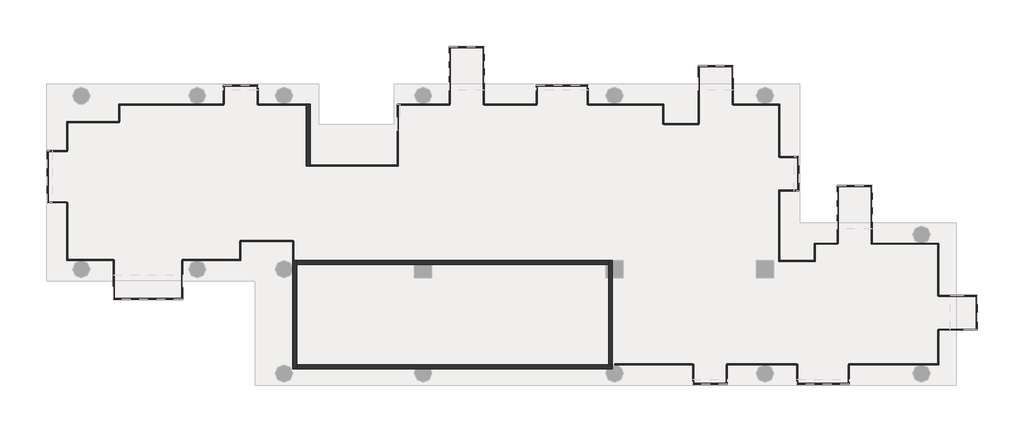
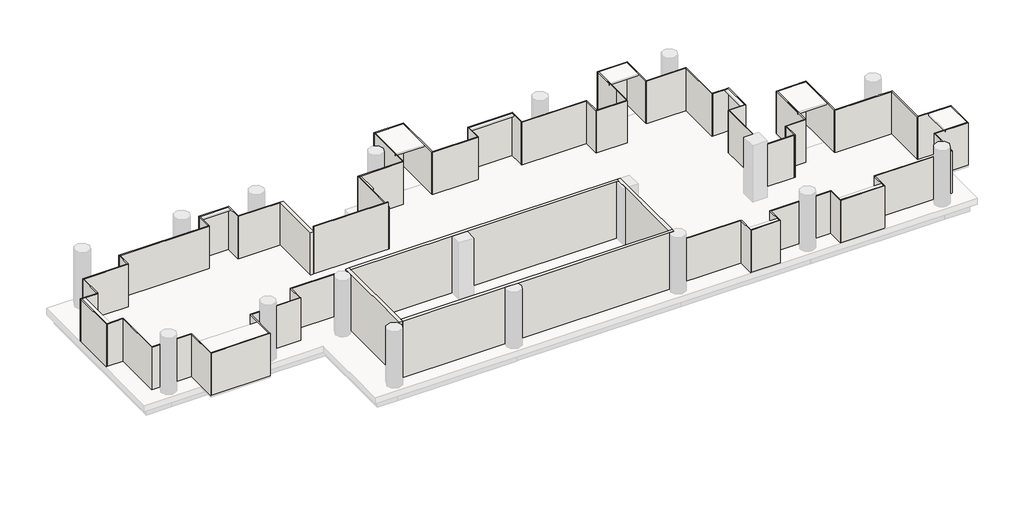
# One storey, part 1 of 2: 69 walls.
"""IFC4 building model written with IfcOpenShell, lengths in millimetres."""

from ifc_helpers import new_model, si_unit, frame, origin, place, context, project, spatial, polyline, outline, extrude, faceted_brep, element, save

model = new_model("IFC4")

# Units and contexts
model_context = context("Model", 3, world=origin())
ifc_project = project(units=[si_unit("LENGTHUNIT", "METRE", prefix="MILLI")], contexts=[model_context])

# Site, building, storey
site = spatial("IfcSite", under=ifc_project)
building = spatial("IfcBuilding", under=site)
storey = spatial("IfcBuildingStorey", under=building, Name="TW-L 08", Elevation=27999.9999686)

# Walls
placement = place(None, origin())
element("IfcWall", 1, ObjectType="AJN-ARC-CONCRETE WALL-20cm", at=placement, inside=storey, context=model_context, shape_type="Brep", body=[
    faceted_brep([(113050.0, 30750.0, 31599.9999686), (113050.0, 30750.0, 27999.9999686), (113050.0, 25150.0, 27999.9999686), (113050.0, 25150.0, 31599.9999686), (113250.0, 30750.0, 27999.9999686), (113250.0, 30750.0, 31599.9999686), (113250.0, 30550.0, 31599.9999686), (113250.0, 25350.0, 31599.9999686), (113250.0, 25150.0, 31599.9999686), (113250.0, 25150.0, 27999.9999686), (113250.0, 25350.0, 27999.9999686), (113250.0, 30550.0, 27999.9999686), (113097.1743518, 30750.0, 27999.9999686)], [[[0, 1, 2, 3]], [[4, 5, 6, 7, 8, 9, 10, 11]], [[2, 1, 12, 4, 11, 10, 9]], [[0, 3, 8, 7, 6, 5]], [[3, 2, 9, 8]], [[0, 5, 4, 12, 1]]]),
])
element("IfcWall", 2, ObjectType="AJN-ARC-CONCRETE WALL-20cm", at=placement, inside=storey, context=model_context, shape_type="Brep", body=[
    faceted_brep([(113250.0, 25150.0, 27999.9999686), (119425.8342613, 25150.0, 27999.9999686), (120174.1657387, 25150.0, 27999.9999686), (129325.8342613, 25150.0, 27999.9999686), (129600.0, 25150.0, 27999.9999686), (129600.0, 25150.0, 31599.9999686), (129325.8342613, 25150.0, 31599.9999686), (120174.1657387, 25150.0, 31599.9999686), (119425.8342613, 25150.0, 31599.9999686), (113250.0, 25150.0, 31599.9999686), (113250.0, 25350.0, 27999.9999686), (113250.0, 25350.0, 31599.9999686), (129400.0, 25350.0, 31599.9999686), (129600.0, 25350.0, 31599.9999686), (129600.0, 25350.0, 27999.9999686), (129400.0, 25350.0, 27999.9999686), (129600.0, 25338.7482194, 27999.9999686), (129600.0, 25338.7482194, 31599.9999686)], [[[0, 1, 2, 3, 4, 5, 6, 7, 8, 9]], [[10, 11, 12, 13, 14, 15]], [[4, 3, 2, 1, 0, 10, 15, 14, 16]], [[9, 8, 7, 6, 5, 17, 13, 12, 11]], [[5, 4, 16, 14, 13, 17]], [[0, 9, 11, 10]]]),
])
element("IfcWall", 3, ObjectType="AJN-ARC-CONCRETE WALL-20cm", at=placement, inside=storey, context=model_context, shape_type="Brep", body=[
    faceted_brep([(129600.0, 25350.0, 27999.9999686), (129600.0, 29850.0, 27999.9999686), (129600.0, 30750.0, 27999.9999686), (129600.0, 30750.0, 31599.9999686), (129600.0, 29850.0, 31599.9999686), (129600.0, 25350.0, 31599.9999686), (129400.0, 25350.0, 27999.9999686), (129400.0, 25350.0, 31599.9999686), (129400.0, 29850.0, 31599.9999686), (129400.0, 30550.0, 31599.9999686), (129400.0, 30750.0, 31599.9999686), (129400.0, 30750.0, 27999.9999686), (129400.0, 30550.0, 27999.9999686), (129400.0, 29850.0, 27999.9999686)], [[[0, 1, 2, 3, 4, 5]], [[6, 7, 8, 9, 10, 11, 12, 13]], [[2, 1, 0, 6, 13, 12, 11]], [[5, 4, 3, 10, 9, 8, 7]], [[3, 2, 11, 10]], [[0, 5, 7, 6]]]),
])
element("IfcWall", 4, ObjectType="AJN-ARC-CONCRETE WALL-20cm", at=placement, inside=storey, context=model_context, shape_type="Brep", body=[
    faceted_brep([(129400.0, 30750.0, 27999.9999686), (113250.0, 30750.0, 27999.9999686), (113250.0, 30750.0, 31599.9999686), (129400.0, 30750.0, 31599.9999686), (129400.0, 30550.0, 27999.9999686), (129400.0, 30550.0, 31599.9999686), (129250.0, 30550.0, 31599.9999686), (120250.0, 30550.0, 31599.9999686), (119350.0, 30550.0, 31599.9999686), (113250.0, 30550.0, 31599.9999686), (113250.0, 30550.0, 27999.9999686), (119350.0, 30550.0, 27999.9999686), (120250.0, 30550.0, 27999.9999686), (129250.0, 30550.0, 27999.9999686)], [[[0, 1, 2, 3]], [[4, 5, 6, 7, 8, 9, 10, 11, 12, 13]], [[1, 0, 4, 13, 12, 11, 10]], [[3, 2, 9, 8, 7, 6, 5]], [[0, 3, 5, 4]], [[1, 10, 9, 2]]]),
])
element("IfcWall", 5, ObjectType="AJN-ARC-CONCRETE WALL-20cm", at=placement, inside=storey, context=model_context, shape_type="Brep", body=[
    faceted_brep([(113950.0, 35650.0, 27999.9999686), (113950.0, 38850.001152, 27999.9999686), (113950.0, 38850.001152, 30699.9999686), (113950.0, 35650.0, 30699.9999686), (113750.0, 35650.0, 27999.9999686), (113750.0, 35650.0, 30699.9999686), (113750.0, 38800.0010666, 30699.9999686), (113750.0, 38850.0010666, 30699.9999686), (113750.0, 38850.0010666, 27999.9999686), (113750.0, 38800.0010666, 27999.9999686)], [[[0, 1, 2, 3]], [[4, 5, 6, 7, 8, 9]], [[1, 0, 4, 9, 8]], [[3, 2, 7, 6, 5]], [[0, 3, 5, 4]], [[2, 1, 8, 7]]]),
])
element("IfcWall", 6, ObjectType="AJN-ARC-GLASS-50mm", at=placement, inside=storey, context=model_context, shape_type="SweptSolid", body=[
    extrude(outline(polyline([(111250.0, 38850.0), (113750.0, 38850.0010666), (113750.0, 38800.0010666), (111250.0000213, 38800.0), (111250.0, 38850.0)])), frame((0.0, 0.0, 27999.9999686), z_axis=(0.0, 0.0, 1.0), x_axis=(1.0, 0.0, 0.0)), (0.0, 0.0, 1.0), 2700.0),
])
element("IfcWall", 7, ObjectType="AJN-ARC-GLASS-50mm", at=placement, inside=storey, context=model_context, shape_type="Brep", body=[
    faceted_brep([(111250.0, 38824.9999893, 27999.9999686), (111250.0, 39850.0, 27999.9999686), (111250.0, 39850.0, 30699.9999686), (111250.0, 38824.9999893, 30699.9999686), (111200.0, 38824.9999893, 27999.9999686), (111200.0, 38824.9999893, 30699.9999686), (111200.0, 39800.0, 30699.9999686), (111200.0, 39850.0, 30699.9999686), (111200.0, 39850.0, 27999.9999686), (111200.0, 39800.0, 27999.9999686)], [[[0, 1, 2, 3]], [[4, 5, 6, 7, 8, 9]], [[1, 0, 4, 9, 8]], [[3, 2, 7, 6, 5]], [[0, 3, 5, 4]], [[2, 1, 8, 7]]]),
])
element("IfcWall", 8, ObjectType="AJN-ARC-GLASS-50mm", at=placement, inside=storey, context=model_context, shape_type="Brep", body=[
    faceted_brep([(111200.0, 39850.0, 27999.9999686), (109450.0, 39850.0, 27999.9999686), (109450.0, 39850.0, 30699.9999686), (111200.0, 39850.0, 30699.9999686), (111200.0, 39800.0, 27999.9999686), (111200.0, 39800.0, 30699.9999686), (109500.0, 39800.0, 30699.9999686), (109450.0, 39800.0, 30699.9999686), (109450.0, 39800.0, 27999.9999686), (109500.0, 39800.0, 27999.9999686)], [[[0, 1, 2, 3]], [[4, 5, 6, 7, 8, 9]], [[1, 0, 4, 9, 8]], [[3, 2, 7, 6, 5]], [[2, 1, 8, 7]], [[0, 3, 5, 4]]]),
])
element("IfcWall", 9, ObjectType="AJN-ARC-GLASS-50mm", at=placement, inside=storey, context=model_context, shape_type="SweptSolid", body=[
    extrude(outline(polyline([(109450.0, 38850.0), (109450.0, 39800.0), (109500.0, 39800.0), (109500.0, 38850.0), (109450.0, 38850.0)])), frame((0.0, 0.0, 27999.9999686), z_axis=(0.0, 0.0, 1.0), x_axis=(1.0, 0.0, 0.0)), (0.0, 0.0, 1.0), 2700.0),
])
element("IfcWall", 10, ObjectType="AJN-ARC-GLASS-50mm", at=placement, inside=storey, context=model_context, shape_type="Brep", body=[
    faceted_brep([(109475.0000018, 38849.9999982, 27999.9999686), (104050.0, 38850.0003839, 27999.9999686), (104050.0, 38850.0003839, 30699.9999686), (109475.0000018, 38849.9999982, 30699.9999686), (109474.9999982, 38799.9999982, 27999.9999686), (109474.9999982, 38799.9999982, 30699.9999686), (104100.0, 38800.0003803, 30699.9999686), (104050.0, 38800.0003839, 30699.9999686), (104050.0, 38800.0003839, 27999.9999686), (104100.0, 38800.0003803, 27999.9999686)], [[[0, 1, 2, 3]], [[4, 5, 6, 7, 8, 9]], [[1, 0, 4, 9, 8]], [[3, 2, 7, 6, 5]], [[0, 3, 5, 4]], [[2, 1, 8, 7]]]),
])
element("IfcWall", 11, ObjectType="AJN-ARC-GLASS-50mm", at=placement, inside=storey, context=model_context, shape_type="SweptSolid", body=[
    extrude(outline(polyline([(104050.0, 37950.0), (104050.0, 38800.0003839), (104100.0, 38800.0003803), (104100.0, 37950.0), (104050.0, 37950.0)])), frame((0.0, 0.0, 27999.9999686), z_axis=(0.0, 0.0, 1.0), x_axis=(1.0, 0.0, 0.0)), (0.0, 0.0, 1.0), 2700.0),
])
element("IfcWall", 12, ObjectType="AJN-ARC-GLASS-50mm", at=placement, inside=storey, context=model_context, shape_type="Brep", body=[
    faceted_brep([(104075.0, 37950.0, 27999.9999686), (101347.1743518, 37950.0, 27999.9999686), (101347.1743518, 37950.0, 30699.9999686), (104075.0, 37950.0, 30699.9999686), (104075.0, 37900.0, 27999.9999686), (104075.0, 37900.0, 30699.9999686), (101397.1743518, 37900.0, 30699.9999686), (101347.1743518, 37900.0, 30699.9999686), (101347.1743518, 37900.0, 27999.9999686), (101397.1743518, 37900.0, 27999.9999686)], [[[0, 1, 2, 3]], [[4, 5, 6, 7, 8, 9]], [[1, 0, 4, 9, 8]], [[3, 2, 7, 6, 5]], [[0, 3, 5, 4]], [[2, 1, 8, 7]]]),
])
element("IfcWall", 13, ObjectType="AJN-ARC-GLASS-50mm", at=placement, inside=storey, context=model_context, shape_type="SweptSolid", body=[
    extrude(outline(polyline([(101347.1743518, 36450.0), (101347.1743518, 37900.0), (101397.1743518, 37900.0), (101397.1743518, 36450.0), (101347.1743518, 36450.0)])), frame((0.0, 0.0, 27999.9999686), z_axis=(0.0, 0.0, 1.0), x_axis=(1.0, 0.0, 0.0)), (0.0, 0.0, 1.0), 2700.0),
])
element("IfcWall", 14, ObjectType="AJN-ARC-GLASS-50mm", at=placement, inside=storey, context=model_context, shape_type="Brep", body=[
    faceted_brep([(101372.1743518, 36450.0, 27999.9999686), (100347.1743518, 36450.0, 27999.9999686), (100347.1743518, 36450.0, 30699.9999686), (101372.1743518, 36450.0, 30699.9999686), (101372.1743518, 36400.0, 27999.9999686), (101372.1743518, 36400.0, 30699.9999686), (100397.1743518, 36400.0, 30699.9999686), (100347.1743518, 36400.0, 30699.9999686), (100347.1743518, 36400.0, 27999.9999686), (100397.1743518, 36400.0, 27999.9999686)], [[[0, 1, 2, 3]], [[4, 5, 6, 7, 8, 9]], [[1, 0, 4, 9, 8]], [[3, 2, 7, 6, 5]], [[0, 3, 5, 4]], [[2, 1, 8, 7]]]),
])
element("IfcWall", 15, ObjectType="AJN-ARC-GLASS-50mm", at=placement, inside=storey, context=model_context, shape_type="Brep", body=[
    faceted_brep([(100347.1743518, 36400.0, 27999.9999686), (100347.1743518, 33750.0, 27999.9999686), (100347.1743518, 33750.0, 30699.9999686), (100347.1743518, 36400.0, 30699.9999686), (100397.1743518, 36400.0, 27999.9999686), (100397.1743518, 36400.0, 30699.9999686), (100397.1743518, 33800.0, 30699.9999686), (100397.1743518, 33750.0, 30699.9999686), (100397.1743518, 33750.0, 27999.9999686), (100397.1743518, 33800.0, 27999.9999686)], [[[0, 1, 2, 3]], [[4, 5, 6, 7, 8, 9]], [[1, 0, 4, 9, 8]], [[3, 2, 7, 6, 5]], [[2, 1, 8, 7]], [[0, 3, 5, 4]]]),
])
element("IfcWall", 16, ObjectType="AJN-ARC-GLASS-50mm", at=placement, inside=storey, context=model_context, shape_type="SweptSolid", body=[
    extrude(outline(polyline([(101347.1743518, 33750.0), (100397.1743518, 33750.0), (100397.1743518, 33800.0), (101347.1743518, 33800.0), (101347.1743518, 33750.0)])), frame((0.0, 0.0, 27999.9999686), z_axis=(0.0, 0.0, 1.0), x_axis=(1.0, 0.0, 0.0)), (0.0, 0.0, 1.0), 2700.0),
])
element("IfcWall", 17, ObjectType="AJN-ARC-GLASS-50mm", at=placement, inside=storey, context=model_context, shape_type="Brep", body=[
    faceted_brep([(101347.1743518, 33775.0, 27999.9999686), (101347.1743518, 30750.0, 27999.9999686), (101347.1743518, 30750.0, 30699.9999686), (101347.1743518, 33775.0, 30699.9999686), (101397.1743518, 33775.0, 27999.9999686), (101397.1743518, 33775.0, 30699.9999686), (101397.1743518, 30800.0, 30699.9999686), (101397.1743518, 30750.0, 30699.9999686), (101397.1743518, 30750.0, 27999.9999686), (101397.1743518, 30800.0, 27999.9999686)], [[[0, 1, 2, 3]], [[4, 5, 6, 7, 8, 9]], [[1, 0, 4, 9, 8]], [[3, 2, 7, 6, 5]], [[0, 3, 5, 4]], [[2, 1, 8, 7]]]),
])
element("IfcWall", 18, ObjectType="AJN-ARC-GLASS-50mm", at=placement, inside=storey, context=model_context, shape_type="SweptSolid", body=[
    extrude(outline(polyline([(103747.1743518, 30750.0), (101397.1743518, 30750.0), (101397.1743518, 30800.0), (103747.1743518, 30800.0), (103747.1743518, 30750.0)])), frame((0.0, 0.0, 27999.9999686), z_axis=(0.0, 0.0, 1.0), x_axis=(1.0, 0.0, 0.0)), (0.0, 0.0, 1.0), 2700.0),
])
element("IfcWall", 19, ObjectType="AJN-ARC-GLASS-50mm", at=placement, inside=storey, context=model_context, shape_type="Brep", body=[
    faceted_brep([(103747.1743518, 30775.0, 27999.9999686), (103747.1743518, 28750.0, 27999.9999686), (103747.1743518, 28750.0, 30699.9999686), (103747.1743518, 30775.0, 30699.9999686), (103797.1743518, 30775.0, 27999.9999686), (103797.1743518, 30775.0, 30699.9999686), (103797.1743518, 28800.0, 30699.9999686), (103797.1743518, 28750.0, 30699.9999686), (103797.1743518, 28750.0, 27999.9999686), (103797.1743518, 28800.0, 27999.9999686)], [[[0, 1, 2, 3]], [[4, 5, 6, 7, 8, 9]], [[1, 0, 4, 9, 8]], [[3, 2, 7, 6, 5]], [[0, 3, 5, 4]], [[2, 1, 8, 7]]]),
])
element("IfcWall", 20, ObjectType="AJN-ARC-GLASS-50mm", at=placement, inside=storey, context=model_context, shape_type="Brep", body=[
    faceted_brep([(103797.1743518, 28750.0, 27999.9999686), (107347.1743518, 28750.0, 27999.9999686), (107347.1743518, 28750.0, 30699.9999686), (103797.1743518, 28750.0, 30699.9999686), (103797.1743518, 28800.0, 27999.9999686), (103797.1743518, 28800.0, 30699.9999686), (107297.1743518, 28800.0, 30699.9999686), (107347.1743518, 28800.0, 30699.9999686), (107347.1743518, 28800.0, 27999.9999686), (107297.1743518, 28800.0, 27999.9999686)], [[[0, 1, 2, 3]], [[4, 5, 6, 7, 8, 9]], [[1, 0, 4, 9, 8]], [[3, 2, 7, 6, 5]], [[2, 1, 8, 7]], [[0, 3, 5, 4]]]),
])
element("IfcWall", 21, ObjectType="AJN-ARC-GLASS-50mm", at=placement, inside=storey, context=model_context, shape_type="SweptSolid", body=[
    extrude(outline(polyline([(107347.1743518, 30750.0), (107347.1743518, 28800.0), (107297.1743518, 28800.0), (107297.1743518, 30750.0), (107347.1743518, 30750.0)])), frame((0.0, 0.0, 27999.9999686), z_axis=(0.0, 0.0, 1.0), x_axis=(1.0, 0.0, 0.0)), (0.0, 0.0, 1.0), 2700.0),
])
element("IfcWall", 22, ObjectType="AJN-ARC-GLASS-50mm", at=placement, inside=storey, context=model_context, shape_type="Brep", body=[
    faceted_brep([(107322.1743518, 30750.0, 27999.9999686), (110347.1743518, 30750.0, 27999.9999686), (110347.1743518, 30750.0, 30699.9999686), (107322.1743518, 30750.0, 30699.9999686), (107322.1743518, 30800.0, 27999.9999686), (107322.1743518, 30800.0, 30699.9999686), (110297.1743518, 30800.0, 30699.9999686), (110347.1743518, 30800.0, 30699.9999686), (110347.1743518, 30800.0, 27999.9999686), (110297.1743518, 30800.0, 27999.9999686)], [[[0, 1, 2, 3]], [[4, 5, 6, 7, 8, 9]], [[1, 0, 4, 9, 8]], [[3, 2, 7, 6, 5]], [[0, 3, 5, 4]], [[2, 1, 8, 7]]]),
])
element("IfcWall", 23, ObjectType="AJN-ARC-GLASS-50mm", at=placement, inside=storey, context=model_context, shape_type="SweptSolid", body=[
    extrude(outline(polyline([(110347.1743518, 31750.0), (110347.1743518, 30800.0), (110297.1743518, 30800.0), (110297.1743518, 31750.0), (110347.1743518, 31750.0)])), frame((0.0, 0.0, 27999.9999686), z_axis=(0.0, 0.0, 1.0), x_axis=(1.0, 0.0, 0.0)), (0.0, 0.0, 1.0), 2700.0),
])
element("IfcWall", 24, ObjectType="AJN-ARC-GLASS-50mm", at=placement, inside=storey, context=model_context, shape_type="SweptSolid", body=[
    extrude(outline(polyline([(113047.1743518, 31750.0), (110322.1743518, 31750.0), (110322.1743518, 31800.0), (113047.1743518, 31800.0), (113047.1743518, 31750.0)])), frame((0.0, 0.0, 27999.9999686), z_axis=(0.0, 0.0, 1.0), x_axis=(1.0, 0.0, 0.0)), (0.0, 0.0, 1.0), 2700.0),
])
element("IfcWall", 25, ObjectType="AJN-ARC-GLASS-50mm", at=placement, inside=storey, context=model_context, shape_type="Brep", body=[
    faceted_brep([(113047.1743518, 31775.0, 27999.9999686), (113047.1743518, 30750.0, 27999.9999686), (113047.1743518, 30750.0, 30699.9999686), (113047.1743518, 31775.0, 30699.9999686), (113097.1743518, 31775.0, 27999.9999686), (113097.1743518, 31775.0, 30699.9999686), (113097.1743518, 30750.0, 30699.9999686), (113097.1743518, 30750.0, 27999.9999686), (113050.0, 30750.0, 27999.9999686)], [[[0, 1, 2, 3]], [[4, 5, 6, 7]], [[1, 0, 4, 7, 8]], [[3, 2, 6, 5]], [[0, 3, 5, 4]], [[2, 1, 8, 7, 6]]]),
])
element("IfcWall", 26, ObjectType="AJN-ARC-GLASS-50mm", at=placement, inside=storey, context=model_context, shape_type="Brep", body=[
    faceted_brep([(138250.0, 30700.0, 27999.9999686), (138250.0, 30750.0, 27999.9999686), (138250.0, 34350.0, 27999.9999686), (138250.0, 34350.0, 30699.9999686), (138250.0, 30750.0, 30699.9999686), (138250.0, 30700.0, 30699.9999686), (138200.0, 30700.0, 27999.9999686), (138200.0, 30700.0, 30699.9999686), (138200.0, 34350.0, 30699.9999686), (138200.0, 34350.0, 27999.9999686)], [[[0, 1, 2, 3, 4, 5]], [[6, 7, 8, 9]], [[2, 1, 0, 6, 9]], [[5, 4, 3, 8, 7]], [[0, 5, 7, 6]], [[3, 2, 9, 8]]]),
])
element("IfcWall", 27, ObjectType="AJN-ARC-GLASS-50mm", at=placement, inside=storey, context=model_context, shape_type="Brep", body=[
    faceted_brep([(138200.0, 34350.0, 27999.9999686), (138250.0, 34350.0, 27999.9999686), (139250.0, 34350.0, 27999.9999686), (139250.0, 34350.0, 30699.9999686), (138250.0, 34350.0, 30699.9999686), (138200.0, 34350.0, 30699.9999686), (138200.0, 34400.0, 27999.9999686), (138200.0, 34400.0, 30699.9999686), (139200.0, 34400.0, 30699.9999686), (139250.0, 34400.0, 30699.9999686), (139250.0, 34400.0, 27999.9999686), (139200.0, 34400.0, 27999.9999686)], [[[0, 1, 2, 3, 4, 5]], [[6, 7, 8, 9, 10, 11]], [[2, 1, 0, 6, 11, 10]], [[5, 4, 3, 9, 8, 7]], [[3, 2, 10, 9]], [[0, 5, 7, 6]]]),
])
element("IfcWall", 28, ObjectType="AJN-ARC-GLASS-50mm", at=placement, inside=storey, context=model_context, shape_type="Brep", body=[
    faceted_brep([(139250.0, 34400.0, 27999.9999686), (139250.0, 36150.0, 27999.9999686), (139250.0, 36150.0, 30699.9999686), (139250.0, 34400.0, 30699.9999686), (139200.0, 34400.0, 27999.9999686), (139200.0, 34400.0, 30699.9999686), (139200.0, 36100.0, 30699.9999686), (139200.0, 36150.0, 30699.9999686), (139200.0, 36150.0, 27999.9999686), (139200.0, 36100.0, 27999.9999686)], [[[0, 1, 2, 3]], [[4, 5, 6, 7, 8, 9]], [[1, 0, 4, 9, 8]], [[3, 2, 7, 6, 5]], [[2, 1, 8, 7]], [[0, 3, 5, 4]]]),
])
element("IfcWall", 29, ObjectType="AJN-ARC-GLASS-50mm", at=placement, inside=storey, context=model_context, shape_type="SweptSolid", body=[
    extrude(outline(polyline([(138250.0, 36150.0), (139200.0, 36150.0), (139200.0, 36100.0), (138250.0, 36100.0), (138250.0, 36150.0)])), frame((0.0, 0.0, 27999.9999686), z_axis=(0.0, 0.0, 1.0), x_axis=(1.0, 0.0, 0.0)), (0.0, 0.0, 1.0), 2700.0),
])
element("IfcWall", 30, ObjectType="AJN-ARC-GLASS-50mm", at=placement, inside=storey, context=model_context, shape_type="Brep", body=[
    faceted_brep([(138250.0, 36125.0, 27999.9999686), (138250.0, 38850.0, 27999.9999686), (138250.0, 38850.0, 30699.9999686), (138250.0, 36125.0, 30699.9999686), (138200.0, 36125.0, 27999.9999686), (138200.0, 36125.0, 30699.9999686), (138200.0, 38800.0, 30699.9999686), (138200.0, 38850.0, 30699.9999686), (138200.0, 38850.0, 27999.9999686), (138200.0, 38800.0, 27999.9999686)], [[[0, 1, 2, 3]], [[4, 5, 6, 7, 8, 9]], [[1, 0, 4, 9, 8]], [[3, 2, 7, 6, 5]], [[0, 3, 5, 4]], [[2, 1, 8, 7]]]),
])
element("IfcWall", 31, ObjectType="AJN-ARC-GLASS-50mm", at=placement, inside=storey, context=model_context, shape_type="SweptSolid", body=[
    extrude(outline(polyline([(135850.0, 38850.0), (138200.0, 38850.0), (138200.0, 38800.0), (135850.0, 38800.0), (135850.0, 38850.0)])), frame((0.0, 0.0, 27999.9999686), z_axis=(0.0, 0.0, 1.0), x_axis=(1.0, 0.0, 0.0)), (0.0, 0.0, 1.0), 2700.0),
])
element("IfcWall", 32, ObjectType="AJN-ARC-GLASS-50mm", at=placement, inside=storey, context=model_context, shape_type="Brep", body=[
    faceted_brep([(135850.0, 38825.0, 27999.9999686), (135850.0, 40850.0, 27999.9999686), (135850.0, 40850.0, 30699.9999686), (135850.0, 38825.0, 30699.9999686), (135800.0, 38825.0, 27999.9999686), (135800.0, 38825.0, 30699.9999686), (135800.0, 40800.0, 30699.9999686), (135800.0, 40850.0, 30699.9999686), (135800.0, 40850.0, 27999.9999686), (135800.0, 40800.0, 27999.9999686)], [[[0, 1, 2, 3]], [[4, 5, 6, 7, 8, 9]], [[1, 0, 4, 9, 8]], [[3, 2, 7, 6, 5]], [[0, 3, 5, 4]], [[2, 1, 8, 7]]]),
])
element("IfcWall", 33, ObjectType="AJN-ARC-GLASS-50mm", at=placement, inside=storey, context=model_context, shape_type="Brep", body=[
    faceted_brep([(135800.0, 40850.0, 27999.9999686), (134050.0, 40850.0, 27999.9999686), (134050.0, 40850.0, 30699.9999686), (135800.0, 40850.0, 30699.9999686), (135800.0, 40800.0, 27999.9999686), (135800.0, 40800.0, 30699.9999686), (134100.0, 40800.0, 30699.9999686), (134050.0, 40800.0, 30699.9999686), (134050.0, 40800.0, 27999.9999686), (134100.0, 40800.0, 27999.9999686)], [[[0, 1, 2, 3]], [[4, 5, 6, 7, 8, 9]], [[1, 0, 4, 9, 8]], [[3, 2, 7, 6, 5]], [[2, 1, 8, 7]], [[0, 3, 5, 4]]]),
])
element("IfcWall", 34, ObjectType="AJN-ARC-GLASS-50mm", at=placement, inside=storey, context=model_context, shape_type="SweptSolid", body=[
    extrude(outline(polyline([(134050.0, 38850.0), (134050.0, 40800.0), (134100.0, 40800.0), (134100.0, 38850.0), (134050.0, 38850.0)])), frame((0.0, 0.0, 27999.9999686), z_axis=(0.0, 0.0, 1.0), x_axis=(1.0, 0.0, 0.0)), (0.0, 0.0, 1.0), 2700.0),
])
element("IfcWall", 35, ObjectType="AJN-ARC-GLASS-50mm", at=placement, inside=storey, context=model_context, shape_type="SweptSolid", body=[
    extrude(outline(polyline([(134050.0, 37850.0), (134050.0, 38850.0), (134100.0, 38850.0), (134100.0, 37850.0), (134050.0, 37850.0)])), frame((0.0, 0.0, 27999.9999686), z_axis=(0.0, 0.0, 1.0), x_axis=(1.0, 0.0, 0.0)), (0.0, 0.0, 1.0), 2700.0),
])
element("IfcWall", 36, ObjectType="AJN-ARC-GLASS-50mm", at=placement, inside=storey, context=model_context, shape_type="SweptSolid", body=[
    extrude(outline(polyline([(132250.0, 37850.0), (134075.0, 37850.0), (134075.0, 37800.0), (132250.0, 37800.0), (132250.0, 37850.0)])), frame((0.0, 0.0, 27999.9999686), z_axis=(0.0, 0.0, 1.0), x_axis=(1.0, 0.0, 0.0)), (0.0, 0.0, 1.0), 2700.0),
])
element("IfcWall", 37, ObjectType="AJN-ARC-GLASS-50mm", at=placement, inside=storey, context=model_context, shape_type="Brep", body=[
    faceted_brep([(132250.0, 37825.0, 27999.9999686), (132250.0, 38850.0, 27999.9999686), (132250.0, 38850.0, 30699.9999686), (132250.0, 37825.0, 30699.9999686), (132200.0, 37825.0, 27999.9999686), (132200.0, 37825.0, 30699.9999686), (132200.0, 38800.0, 30699.9999686), (132200.0, 38850.0, 30699.9999686), (132200.0, 38850.0, 27999.9999686), (132200.0, 38800.0, 27999.9999686)], [[[0, 1, 2, 3]], [[4, 5, 6, 7, 8, 9]], [[1, 0, 4, 9, 8]], [[3, 2, 7, 6, 5]], [[0, 3, 5, 4]], [[2, 1, 8, 7]]]),
])
element("IfcWall", 38, ObjectType="AJN-ARC-GLASS-50mm", at=placement, inside=storey, context=model_context, shape_type="SweptSolid", body=[
    extrude(outline(polyline([(128350.0, 38850.0), (132200.0, 38850.0), (132200.0, 38800.0), (128350.0, 38800.0), (128350.0, 38850.0)])), frame((0.0, 0.0, 27999.9999686), z_axis=(0.0, 0.0, 1.0), x_axis=(1.0, 0.0, 0.0)), (0.0, 0.0, 1.0), 2700.0),
])
element("IfcWall", 39, ObjectType="AJN-ARC-GLASS-50mm", at=placement, inside=storey, context=model_context, shape_type="Brep", body=[
    faceted_brep([(128350.0, 38825.0, 27999.9999686), (128350.0, 39850.0, 27999.9999686), (128350.0, 39850.0, 30699.9999686), (128350.0, 38825.0, 30699.9999686), (128300.0, 38825.0, 27999.9999686), (128300.0, 38825.0, 30699.9999686), (128300.0, 39800.0, 30699.9999686), (128300.0, 39850.0, 30699.9999686), (128300.0, 39850.0, 27999.9999686), (128300.0, 39800.0, 27999.9999686)], [[[0, 1, 2, 3]], [[4, 5, 6, 7, 8, 9]], [[1, 0, 4, 9, 8]], [[3, 2, 7, 6, 5]], [[0, 3, 5, 4]], [[2, 1, 8, 7]]]),
])
element("IfcWall", 40, ObjectType="AJN-ARC-GLASS-50mm", at=placement, inside=storey, context=model_context, shape_type="Brep", body=[
    faceted_brep([(128300.0, 39850.0, 27999.9999686), (125650.0, 39850.0, 27999.9999686), (125650.0, 39850.0, 30699.9999686), (128300.0, 39850.0, 30699.9999686), (128300.0, 39800.0, 27999.9999686), (128300.0, 39800.0, 30699.9999686), (125700.0, 39800.0, 30699.9999686), (125650.0, 39800.0, 30699.9999686), (125650.0, 39800.0, 27999.9999686), (125700.0, 39800.0, 27999.9999686)], [[[0, 1, 2, 3]], [[4, 5, 6, 7, 8, 9]], [[1, 0, 4, 9, 8]], [[3, 2, 7, 6, 5]], [[2, 1, 8, 7]], [[0, 3, 5, 4]]]),
])
element("IfcWall", 41, ObjectType="AJN-ARC-GLASS-50mm", at=placement, inside=storey, context=model_context, shape_type="SweptSolid", body=[
    extrude(outline(polyline([(125650.0, 38850.0), (125650.0, 39800.0), (125700.0, 39800.0), (125700.0, 38850.0), (125650.0, 38850.0)])), frame((0.0, 0.0, 27999.9999686), z_axis=(0.0, 0.0, 1.0), x_axis=(1.0, 0.0, 0.0)), (0.0, 0.0, 1.0), 2700.0),
])
element("IfcWall", 42, ObjectType="AJN-ARC-GLASS-50mm", at=placement, inside=storey, context=model_context, shape_type="SweptSolid", body=[
    extrude(outline(polyline([(122950.0, 38850.0), (125675.0, 38850.0), (125675.0, 38800.0), (122950.0, 38800.0), (122950.0, 38850.0)])), frame((0.0, 0.0, 27999.9999686), z_axis=(0.0, 0.0, 1.0), x_axis=(1.0, 0.0, 0.0)), (0.0, 0.0, 1.0), 2700.0),
])
element("IfcWall", 43, ObjectType="AJN-ARC-GLASS-50mm", at=placement, inside=storey, context=model_context, shape_type="Brep", body=[
    faceted_brep([(122950.0, 38825.0, 27999.9999686), (122950.0, 41850.0, 27999.9999686), (122950.0, 41850.0, 30699.9999686), (122950.0, 38825.0, 30699.9999686), (122900.0, 38825.0, 27999.9999686), (122900.0, 38825.0, 30699.9999686), (122900.0, 41800.0, 30699.9999686), (122900.0, 41850.0, 30699.9999686), (122900.0, 41850.0, 27999.9999686), (122900.0, 41800.0, 27999.9999686)], [[[0, 1, 2, 3]], [[4, 5, 6, 7, 8, 9]], [[1, 0, 4, 9, 8]], [[3, 2, 7, 6, 5]], [[0, 3, 5, 4]], [[2, 1, 8, 7]]]),
])
element("IfcWall", 44, ObjectType="AJN-ARC-GLASS-50mm", at=placement, inside=storey, context=model_context, shape_type="Brep", body=[
    faceted_brep([(122900.0, 41850.0, 27999.9999686), (121150.0, 41850.0, 27999.9999686), (121150.0, 41850.0, 30699.9999686), (122900.0, 41850.0, 30699.9999686), (122900.0, 41800.0, 27999.9999686), (122900.0, 41800.0, 30699.9999686), (121200.0, 41800.0, 30699.9999686), (121150.0, 41800.0, 30699.9999686), (121150.0, 41800.0, 27999.9999686), (121200.0, 41800.0, 27999.9999686)], [[[0, 1, 2, 3]], [[4, 5, 6, 7, 8, 9]], [[1, 0, 4, 9, 8]], [[3, 2, 7, 6, 5]], [[2, 1, 8, 7]], [[0, 3, 5, 4]]]),
])
element("IfcWall", 45, ObjectType="AJN-ARC-GLASS-50mm", at=placement, inside=storey, context=model_context, shape_type="SweptSolid", body=[
    extrude(outline(polyline([(121150.0, 38850.0), (121150.0, 41800.0), (121200.0, 41800.0), (121200.0, 38850.0), (121150.0, 38850.0)])), frame((0.0, 0.0, 27999.9999686), z_axis=(0.0, 0.0, 1.0), x_axis=(1.0, 0.0, 0.0)), (0.0, 0.0, 1.0), 2700.0),
])
element("IfcWall", 46, ObjectType="AJN-ARC-GLASS-50mm", at=placement, inside=storey, context=model_context, shape_type="Brep", body=[
    faceted_brep([(121175.0, 38850.0, 27999.9999686), (118450.0, 38850.0, 27999.9999686), (118450.0, 38850.0, 30699.9999686), (121175.0, 38850.0, 30699.9999686), (121175.0, 38800.0, 27999.9999686), (121175.0, 38800.0, 30699.9999686), (118500.0, 38800.0, 30699.9999686), (118450.0, 38800.0, 30699.9999686), (118450.0, 38800.0, 27999.9999686), (118500.0, 38800.0, 27999.9999686)], [[[0, 1, 2, 3]], [[4, 5, 6, 7, 8, 9]], [[1, 0, 4, 9, 8]], [[3, 2, 7, 6, 5]], [[0, 3, 5, 4]], [[2, 1, 8, 7]]]),
])
element("IfcWall", 47, ObjectType="AJN-ARC-GLASS-50mm", at=placement, inside=storey, context=model_context, shape_type="SweptSolid", body=[
    extrude(outline(polyline([(133750.2925687, 25350.0), (129714.068817, 25350.0), (129714.068817, 25400.0), (133750.2925687, 25400.0), (133750.2925687, 25350.0)])), frame((0.0, 0.0, 27999.9999686), z_axis=(0.0, 0.0, 1.0), x_axis=(1.0, 0.0, 0.0)), (0.0, 0.0, 1.0), 2700.0),
])
element("IfcWall", 48, ObjectType="AJN-ARC-GLASS-50mm", at=placement, inside=storey, context=model_context, shape_type="Brep", body=[
    faceted_brep([(133750.2925687, 25375.0, 27999.9999686), (133750.2925687, 24350.0, 27999.9999686), (133750.2925687, 24350.0, 30699.9999686), (133750.2925687, 25375.0, 30699.9999686), (133800.2925687, 25375.0, 27999.9999686), (133800.2925687, 25375.0, 30699.9999686), (133800.2925687, 24400.0, 30699.9999686), (133800.2925687, 24350.0, 30699.9999686), (133800.2925687, 24350.0, 27999.9999686), (133800.2925687, 24400.0, 27999.9999686)], [[[0, 1, 2, 3]], [[4, 5, 6, 7, 8, 9]], [[1, 0, 4, 9, 8]], [[3, 2, 7, 6, 5]], [[0, 3, 5, 4]], [[2, 1, 8, 7]]]),
])
element("IfcWall", 49, ObjectType="AJN-ARC-GLASS-50mm", at=placement, inside=storey, context=model_context, shape_type="Brep", body=[
    faceted_brep([(133800.2925687, 24350.0, 27999.9999686), (135550.2925687, 24350.0, 27999.9999686), (135550.2925687, 24350.0, 30699.9999686), (133800.2925687, 24350.0, 30699.9999686), (133800.2925687, 24400.0, 27999.9999686), (133800.2925687, 24400.0, 30699.9999686), (135500.2925687, 24400.0, 30699.9999686), (135550.2925687, 24400.0, 30699.9999686), (135550.2925687, 24400.0, 27999.9999686), (135500.2925687, 24400.0, 27999.9999686)], [[[0, 1, 2, 3]], [[4, 5, 6, 7, 8, 9]], [[1, 0, 4, 9, 8]], [[3, 2, 7, 6, 5]], [[2, 1, 8, 7]], [[0, 3, 5, 4]]]),
])
element("IfcWall", 50, ObjectType="AJN-ARC-GLASS-50mm", at=placement, inside=storey, context=model_context, shape_type="SweptSolid", body=[
    extrude(outline(polyline([(135550.2925687, 25350.0), (135550.2925687, 24400.0), (135500.2925687, 24400.0), (135500.2925687, 25350.0), (135550.2925687, 25350.0)])), frame((0.0, 0.0, 27999.9999686), z_axis=(0.0, 0.0, 1.0), x_axis=(1.0, 0.0, 0.0)), (0.0, 0.0, 1.0), 2700.0),
])
element("IfcWall", 51, ObjectType="AJN-ARC-GLASS-50mm", at=placement, inside=storey, context=model_context, shape_type="SweptSolid", body=[
    extrude(outline(polyline([(139150.1203267, 25350.0), (135525.2925687, 25350.0), (135525.2925687, 25400.0), (139150.1203267, 25400.0), (139150.1203267, 25350.0)])), frame((0.0, 0.0, 27999.9999686), z_axis=(0.0, 0.0, 1.0), x_axis=(1.0, 0.0, 0.0)), (0.0, 0.0, 1.0), 2700.0),
])
element("IfcWall", 52, ObjectType="AJN-ARC-GLASS-50mm", at=placement, inside=storey, context=model_context, shape_type="Brep", body=[
    faceted_brep([(139150.1203267, 25375.0, 27999.9999686), (139150.1203267, 24350.0, 27999.9999686), (139150.1203267, 24350.0, 30699.9999686), (139150.1203267, 25375.0, 30699.9999686), (139200.1203267, 25375.0, 27999.9999686), (139200.1203267, 25375.0, 30699.9999686), (139200.1203267, 24400.0, 30699.9999686), (139200.1203267, 24350.0, 30699.9999686), (139200.1203267, 24350.0, 27999.9999686), (139200.1203267, 24400.0, 27999.9999686)], [[[0, 1, 2, 3]], [[4, 5, 6, 7, 8, 9]], [[1, 0, 4, 9, 8]], [[3, 2, 7, 6, 5]], [[0, 3, 5, 4]], [[2, 1, 8, 7]]]),
])
element("IfcWall", 53, ObjectType="AJN-ARC-GLASS-50mm", at=placement, inside=storey, context=model_context, shape_type="Brep", body=[
    faceted_brep([(139200.1203267, 24350.0, 27999.9999686), (141850.1203267, 24350.0, 27999.9999686), (141850.1203267, 24350.0, 30699.9999686), (139200.1203267, 24350.0, 30699.9999686), (139200.1203267, 24400.0, 27999.9999686), (139200.1203267, 24400.0, 30699.9999686), (141800.1203267, 24400.0, 30699.9999686), (141850.1203267, 24400.0, 30699.9999686), (141850.1203267, 24400.0, 27999.9999686), (141800.1203267, 24400.0, 27999.9999686)], [[[0, 1, 2, 3]], [[4, 5, 6, 7, 8, 9]], [[1, 0, 4, 9, 8]], [[3, 2, 7, 6, 5]], [[2, 1, 8, 7]], [[0, 3, 5, 4]]]),
])
element("IfcWall", 54, ObjectType="AJN-ARC-GLASS-50mm", at=placement, inside=storey, context=model_context, shape_type="SweptSolid", body=[
    extrude(outline(polyline([(141850.1203267, 25350.0), (141850.1203267, 24400.0), (141800.1203267, 24400.0), (141800.1203267, 25350.0), (141850.1203267, 25350.0)])), frame((0.0, 0.0, 27999.9999686), z_axis=(0.0, 0.0, 1.0), x_axis=(1.0, 0.0, 0.0)), (0.0, 0.0, 1.0), 2700.0),
])
element("IfcWall", 55, ObjectType="AJN-ARC-GLASS-50mm", at=placement, inside=storey, context=model_context, shape_type="Brep", body=[
    faceted_brep([(141825.1203267, 25350.0, 27999.9999686), (146497.681474, 25350.0, 27999.9999686), (146497.681474, 25350.0, 30699.9999686), (141825.1203267, 25350.0, 30699.9999686), (141825.1203267, 25400.0, 27999.9999686), (141825.1203267, 25400.0, 30699.9999686), (146447.681474, 25400.0, 30699.9999686), (146497.681474, 25400.0, 30699.9999686), (146497.681474, 25400.0, 27999.9999686), (146447.681474, 25400.0, 27999.9999686)], [[[0, 1, 2, 3]], [[4, 5, 6, 7, 8, 9]], [[1, 0, 4, 9, 8]], [[3, 2, 7, 6, 5]], [[0, 3, 5, 4]], [[2, 1, 8, 7]]]),
])
element("IfcWall", 56, ObjectType="AJN-ARC-GLASS-50mm", at=placement, inside=storey, context=model_context, shape_type="SweptSolid", body=[
    extrude(outline(polyline([(146497.681474, 27148.986399), (146497.681474, 25400.0), (146447.681474, 25400.0), (146447.681474, 27148.986399), (146497.681474, 27148.986399)])), frame((0.0, 0.0, 27999.9999686), z_axis=(0.0, 0.0, 1.0), x_axis=(1.0, 0.0, 0.0)), (0.0, 0.0, 1.0), 2700.0),
])
element("IfcWall", 57, ObjectType="AJN-ARC-GLASS-50mm", at=placement, inside=storey, context=model_context, shape_type="Brep", body=[
    faceted_brep([(146472.681474, 27148.986399, 27999.9999686), (148497.681474, 27148.986399, 27999.9999686), (148497.681474, 27148.986399, 30699.9999686), (146472.681474, 27148.986399, 30699.9999686), (146472.681474, 27198.986399, 27999.9999686), (146472.681474, 27198.986399, 30699.9999686), (148447.681474, 27198.986399, 30699.9999686), (148497.681474, 27198.986399, 30699.9999686), (148497.681474, 27198.986399, 27999.9999686), (148447.681474, 27198.986399, 27999.9999686)], [[[0, 1, 2, 3]], [[4, 5, 6, 7, 8, 9]], [[1, 0, 4, 9, 8]], [[3, 2, 7, 6, 5]], [[0, 3, 5, 4]], [[2, 1, 8, 7]]]),
])
element("IfcWall", 58, ObjectType="AJN-ARC-GLASS-50mm", at=placement, inside=storey, context=model_context, shape_type="Brep", body=[
    faceted_brep([(148497.681474, 27198.986399, 27999.9999686), (148497.681474, 28948.986399, 27999.9999686), (148497.681474, 28948.986399, 30699.9999686), (148497.681474, 27198.986399, 30699.9999686), (148447.681474, 27198.986399, 27999.9999686), (148447.681474, 27198.986399, 30699.9999686), (148447.681474, 28898.986399, 30699.9999686), (148447.681474, 28948.986399, 30699.9999686), (148447.681474, 28948.986399, 27999.9999686), (148447.681474, 28898.986399, 27999.9999686)], [[[0, 1, 2, 3]], [[4, 5, 6, 7, 8, 9]], [[1, 0, 4, 9, 8]], [[3, 2, 7, 6, 5]], [[2, 1, 8, 7]], [[0, 3, 5, 4]]]),
])
element("IfcWall", 59, ObjectType="AJN-ARC-GLASS-50mm", at=placement, inside=storey, context=model_context, shape_type="SweptSolid", body=[
    extrude(outline(polyline([(146497.681474, 28948.986399), (148447.681474, 28948.986399), (148447.681474, 28898.986399), (146497.681474, 28898.986399), (146497.681474, 28948.986399)])), frame((0.0, 0.0, 27999.9999686), z_axis=(0.0, 0.0, 1.0), x_axis=(1.0, 0.0, 0.0)), (0.0, 0.0, 1.0), 2700.0),
])
element("IfcWall", 60, ObjectType="AJN-ARC-GLASS-50mm", at=placement, inside=storey, context=model_context, shape_type="Brep", body=[
    faceted_brep([(146497.681474, 28923.986399, 27999.9999686), (146497.681474, 31651.6593424, 27999.9999686), (146497.681474, 31651.6593424, 30699.9999686), (146497.681474, 28923.986399, 30699.9999686), (146447.681474, 28923.986399, 27999.9999686), (146447.681474, 28923.986399, 30699.9999686), (146447.681474, 31601.6593424, 30699.9999686), (146447.681474, 31651.6593424, 30699.9999686), (146447.681474, 31651.6593424, 27999.9999686), (146447.681474, 31601.6593424, 27999.9999686)], [[[0, 1, 2, 3]], [[4, 5, 6, 7, 8, 9]], [[1, 0, 4, 9, 8]], [[3, 2, 7, 6, 5]], [[0, 3, 5, 4]], [[2, 1, 8, 7]]]),
])
element("IfcWall", 61, ObjectType="AJN-ARC-GLASS-50mm", at=placement, inside=storey, context=model_context, shape_type="Brep", body=[
    faceted_brep([(146447.681474, 31651.6593424, 27999.9999686), (145638.6089983, 31651.6593424, 27999.9999686), (145561.3910017, 31651.6593424, 27999.9999686), (143050.0855834, 31651.6593424, 27999.9999686), (143050.0855834, 31651.6593424, 30699.9999686), (145561.3910017, 31651.6593424, 30699.9999686), (145638.6089983, 31651.6593424, 30699.9999686), (146447.681474, 31651.6593424, 30699.9999686), (146447.681474, 31601.6593424, 27999.9999686), (146447.681474, 31601.6593424, 30699.9999686), (143050.0855834, 31601.6593424, 30699.9999686), (143050.0855834, 31601.6593424, 27999.9999686)], [[[0, 1, 2, 3, 4, 5, 6, 7]], [[8, 9, 10, 11]], [[3, 2, 1, 0, 8, 11]], [[4, 3, 11, 10]], [[7, 6, 5, 4, 10, 9]], [[0, 7, 9, 8]]]),
])
element("IfcWall", 62, ObjectType="AJN-ARC-GLASS-50mm", at=placement, inside=storey, context=model_context, shape_type="Brep", body=[
    faceted_brep([(143050.0855834, 31626.6593424, 27999.9999686), (143050.0855834, 34651.6593424, 27999.9999686), (143050.0855834, 34651.6593424, 30699.9999686), (143050.0855834, 31626.6593424, 30699.9999686), (143000.0855834, 31626.6593424, 27999.9999686), (143000.0855834, 31626.6593424, 30699.9999686), (143000.0855834, 34601.6593424, 30699.9999686), (143000.0855834, 34651.6593424, 30699.9999686), (143000.0855834, 34651.6593424, 27999.9999686), (143000.0855834, 34601.6593424, 27999.9999686)], [[[0, 1, 2, 3]], [[4, 5, 6, 7, 8, 9]], [[1, 0, 4, 9, 8]], [[3, 2, 7, 6, 5]], [[0, 3, 5, 4]], [[2, 1, 8, 7]]]),
])
element("IfcWall", 63, ObjectType="AJN-ARC-GLASS-50mm", at=placement, inside=storey, context=model_context, shape_type="Brep", body=[
    faceted_brep([(143000.0855834, 34651.6593424, 27999.9999686), (141250.0855834, 34651.6593424, 27999.9999686), (141250.0855834, 34651.6593424, 30699.9999686), (143000.0855834, 34651.6593424, 30699.9999686), (143000.0855834, 34601.6593424, 27999.9999686), (143000.0855834, 34601.6593424, 30699.9999686), (141300.0855834, 34601.6593424, 30699.9999686), (141250.0855834, 34601.6593424, 30699.9999686), (141250.0855834, 34601.6593424, 27999.9999686), (141300.0855834, 34601.6593424, 27999.9999686)], [[[0, 1, 2, 3]], [[4, 5, 6, 7, 8, 9]], [[1, 0, 4, 9, 8]], [[3, 2, 7, 6, 5]], [[2, 1, 8, 7]], [[0, 3, 5, 4]]]),
])
element("IfcWall", 64, ObjectType="AJN-ARC-GLASS-50mm", at=placement, inside=storey, context=model_context, shape_type="SweptSolid", body=[
    extrude(outline(polyline([(141250.0855834, 31651.6593424), (141250.0855834, 34601.6593424), (141300.0855834, 34601.6593424), (141300.0855834, 31651.6593424), (141250.0855834, 31651.6593424)])), frame((0.0, 0.0, 27999.9999686), z_axis=(0.0, 0.0, 1.0), x_axis=(1.0, 0.0, 0.0)), (0.0, 0.0, 1.0), 2700.0),
])
element("IfcWall", 65, ObjectType="AJN-ARC-GLASS-50mm", at=placement, inside=storey, context=model_context, shape_type="Brep", body=[
    faceted_brep([(141275.0855834, 31651.6593424, 27999.9999686), (140050.0, 31651.6593424, 27999.9999686), (140050.0, 31651.6593424, 30699.9999686), (141275.0855834, 31651.6593424, 30699.9999686), (141275.0855834, 31601.6593424, 27999.9999686), (141275.0855834, 31601.6593424, 30699.9999686), (140100.0, 31601.6593424, 30699.9999686), (140050.0, 31601.6593424, 30699.9999686), (140050.0, 31601.6593424, 27999.9999686), (140100.0, 31601.6593424, 27999.9999686)], [[[0, 1, 2, 3]], [[4, 5, 6, 7, 8, 9]], [[1, 0, 4, 9, 8]], [[3, 2, 7, 6, 5]], [[0, 3, 5, 4]], [[2, 1, 8, 7]]]),
])
element("IfcWall", 66, ObjectType="AJN-ARC-GLASS-50mm", at=placement, inside=storey, context=model_context, shape_type="Brep", body=[
    faceted_brep([(140050.0, 31601.6593424, 27999.9999686), (140050.0, 30750.0, 27999.9999686), (140050.0, 30700.0, 27999.9999686), (140050.0, 30700.0, 30699.9999686), (140050.0, 30750.0, 30699.9999686), (140050.0, 31601.6593424, 30699.9999686), (140100.0, 31601.6593424, 27999.9999686), (140100.0, 31601.6593424, 30699.9999686), (140100.0, 30700.0, 30699.9999686), (140100.0, 30700.0, 27999.9999686)], [[[0, 1, 2, 3, 4, 5]], [[6, 7, 8, 9]], [[2, 1, 0, 6, 9]], [[5, 4, 3, 8, 7]], [[0, 5, 7, 6]], [[3, 2, 9, 8]]]),
])
element("IfcWall", 67, ObjectType="AJN-ARC-GLASS-50mm", at=placement, inside=storey, context=model_context, shape_type="SweptSolid", body=[
    extrude(outline(polyline([(138250.0, 30750.0), (140050.0, 30750.0), (140050.0, 30700.0), (138250.0, 30700.0), (138250.0, 30750.0)])), frame((0.0, 0.0, 27999.9999686), z_axis=(0.0, 0.0, 1.0), x_axis=(1.0, 0.0, 0.0)), (0.0, 0.0, 1.0), 2700.0),
])
element("IfcWall", 68, ObjectType="AJN-ARC-GLASS-50mm", at=placement, inside=storey, context=model_context, shape_type="SweptSolid", body=[
    extrude(outline(polyline([(118450.0, 35650.0), (118450.0, 38800.0), (118500.0, 38800.0), (118500.0, 35650.0), (118450.0, 35650.0)])), frame((0.0, 0.0, 27999.9999686), z_axis=(0.0, 0.0, 1.0), x_axis=(1.0, 0.0, 0.0)), (0.0, 0.0, 1.0), 2700.0),
])
element("IfcWall", 69, ObjectType="AJN-ARC-GLASS-50mm", at=placement, inside=storey, context=model_context, shape_type="SweptSolid", body=[
    extrude(outline(polyline([(118450.0, 35650.0), (113950.0, 35650.0), (113950.0, 35700.0), (118450.0, 35700.0), (118450.0, 35650.0)])), frame((0.0, 0.0, 27999.9999686), z_axis=(0.0, 0.0, 1.0), x_axis=(1.0, 0.0, 0.0)), (0.0, 0.0, 1.0), 3000.0),
])

save(model, "model.ifc")
